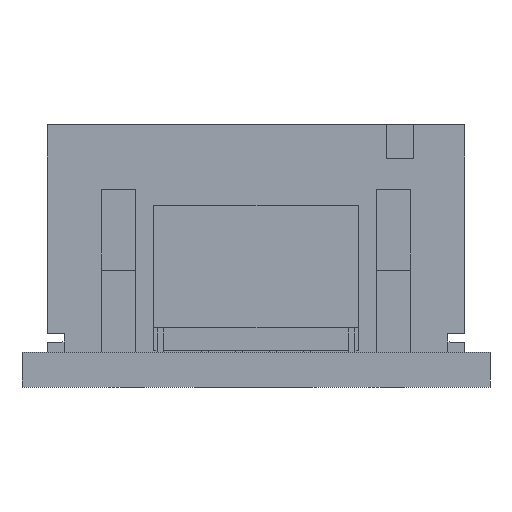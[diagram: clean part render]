
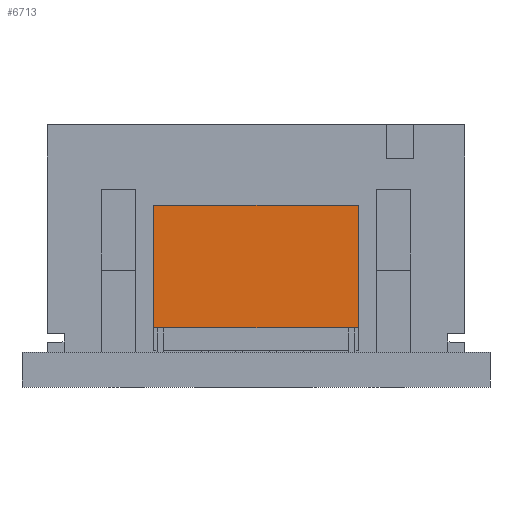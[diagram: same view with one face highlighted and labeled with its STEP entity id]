
A CAD part, front view. The second image highlights one B-rep face of the part: STEP entity #6713.
In plain terms, the highlighted planar face has unit normal (0, -1, 0).
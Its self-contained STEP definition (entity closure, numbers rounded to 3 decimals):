
#112 = LINE ( 'NONE', #13338, #29700 ) ;
#1657 = CARTESIAN_POINT ( 'NONE',  ( 9.858, 4.316, 5.336 ) ) ;
#2852 = DIRECTION ( 'NONE',  ( 1., 0., 0. ) ) ;
#3310 = DIRECTION ( 'NONE',  ( -1., 0., 0. ) ) ;
#3380 = LINE ( 'NONE', #6134, #18082 ) ;
#4382 = CARTESIAN_POINT ( 'NONE',  ( 3.858, 4.316, 1.736 ) ) ;
#5279 = AXIS2_PLACEMENT_3D ( 'NONE', #30039, #27238, #3310 ) ;
#5453 = CARTESIAN_POINT ( 'NONE',  ( 3.858, 4.316, 5.336 ) ) ;
#5656 = DIRECTION ( 'NONE',  ( 1., 0., 0. ) ) ;
#6134 = CARTESIAN_POINT ( 'NONE',  ( 3.858, 4.316, 5.336 ) ) ;
#6206 = ORIENTED_EDGE ( 'NONE', *, *, #20462, .F. ) ;
#6713 = ADVANCED_FACE ( 'NONE', ( #29016 ), #15695, .F. ) ;
#6746 = EDGE_LOOP ( 'NONE', ( #19672, #26798, #6206, #28082 ) ) ;
#8372 = VECTOR ( 'NONE', #2852, 1000. ) ;
#10295 = VERTEX_POINT ( 'NONE', #12175 ) ;
#11011 = CARTESIAN_POINT ( 'NONE',  ( 3.858, 4.316, 5.336 ) ) ;
#11161 = VERTEX_POINT ( 'NONE', #5453 ) ;
#12175 = CARTESIAN_POINT ( 'NONE',  ( 9.858, 4.316, 5.336 ) ) ;
#13255 = DIRECTION ( 'NONE',  ( 0., 0., -1. ) ) ;
#13338 = CARTESIAN_POINT ( 'NONE',  ( 3.858, 4.316, 1.736 ) ) ;
#14517 = DIRECTION ( 'NONE',  ( 0., 0., -1. ) ) ;
#15695 = PLANE ( 'NONE',  #5279 ) ;
#15932 = VECTOR ( 'NONE', #13255, 1000. ) ;
#16266 = LINE ( 'NONE', #11011, #8372 ) ;
#18066 = EDGE_CURVE ( 'NONE', #11161, #30449, #3380, .T. ) ;
#18082 = VECTOR ( 'NONE', #14517, 1000. ) ;
#18686 = VERTEX_POINT ( 'NONE', #27214 ) ;
#19672 = ORIENTED_EDGE ( 'NONE', *, *, #18066, .T. ) ;
#20462 = EDGE_CURVE ( 'NONE', #10295, #18686, #26748, .T. ) ;
#21783 = EDGE_CURVE ( 'NONE', #11161, #10295, #16266, .T. ) ;
#26748 = LINE ( 'NONE', #1657, #15932 ) ;
#26798 = ORIENTED_EDGE ( 'NONE', *, *, #29584, .T. ) ;
#27214 = CARTESIAN_POINT ( 'NONE',  ( 9.858, 4.316, 1.736 ) ) ;
#27238 = DIRECTION ( 'NONE',  ( 0., 1., 0. ) ) ;
#28082 = ORIENTED_EDGE ( 'NONE', *, *, #21783, .F. ) ;
#29016 = FACE_OUTER_BOUND ( 'NONE', #6746, .T. ) ;
#29584 = EDGE_CURVE ( 'NONE', #30449, #18686, #112, .T. ) ;
#29700 = VECTOR ( 'NONE', #5656, 1000. ) ;
#30039 = CARTESIAN_POINT ( 'NONE',  ( 3.858, 4.316, 5.336 ) ) ;
#30449 = VERTEX_POINT ( 'NONE', #4382 ) ;
